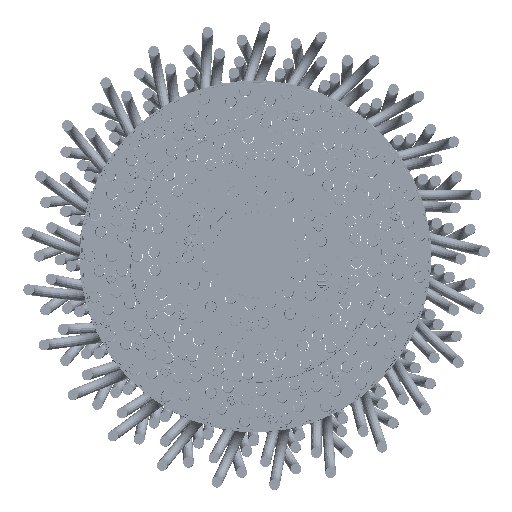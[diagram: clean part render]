
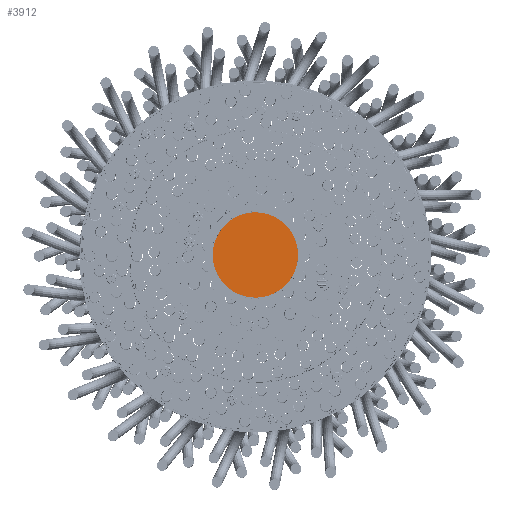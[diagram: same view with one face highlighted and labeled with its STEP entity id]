
A CAD part, top view. The second image highlights one B-rep face of the part: STEP entity #3912.
In plain terms, the highlighted free-form (B-spline) face has degree [1, 1] with [2, 2] control points.
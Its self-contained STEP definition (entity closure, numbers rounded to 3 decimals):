
#3912=ADVANCED_FACE('',(#5302),#63239,.T.);
#5302=FACE_OUTER_BOUND('',#7673,.T.);
#7673=EDGE_LOOP('',(#16253,#16254));
#16253=ORIENTED_EDGE('',*,*,#51404,.F.);
#16254=ORIENTED_EDGE('',*,*,#51408,.T.);
#23298=(
BOUNDED_CURVE()
B_SPLINE_CURVE(2,(#129102,#129103,#129104,#129105,#129106),
 .UNSPECIFIED.,.F.,.F.)
B_SPLINE_CURVE_WITH_KNOTS((3,2,3),(-251.327,-125.664,
0.),.UNSPECIFIED.)
CURVE()
GEOMETRIC_REPRESENTATION_ITEM()
RATIONAL_B_SPLINE_CURVE((1.,0.707,1.,0.707,1.))
REPRESENTATION_ITEM('')
);
#23304=(
BOUNDED_CURVE()
B_SPLINE_CURVE(2,(#129135,#129136,#129137,#129138,#129139),
 .UNSPECIFIED.,.F.,.F.)
B_SPLINE_CURVE_WITH_KNOTS((3,2,3),(-251.327,-125.664,
0.),.UNSPECIFIED.)
CURVE()
GEOMETRIC_REPRESENTATION_ITEM()
RATIONAL_B_SPLINE_CURVE((1.,0.707,1.,0.707,1.))
REPRESENTATION_ITEM('')
);
#23305=(
BOUNDED_CURVE()
B_SPLINE_CURVE(2,(#129140,#129141,#129142,#129143,#129144),
 .UNSPECIFIED.,.F.,.F.)
B_SPLINE_CURVE_WITH_KNOTS((3,2,3),(251.327,376.991,502.655),
 .UNSPECIFIED.)
CURVE()
GEOMETRIC_REPRESENTATION_ITEM()
RATIONAL_B_SPLINE_CURVE((1.,0.707,1.,0.707,1.))
REPRESENTATION_ITEM('')
);
#23306=(
BOUNDED_CURVE()
B_SPLINE_CURVE(2,(#129145,#129146,#129147,#129148,#129149),
 .UNSPECIFIED.,.F.,.F.)
B_SPLINE_CURVE_WITH_KNOTS((3,2,3),(251.327,376.991,502.655),
 .UNSPECIFIED.)
CURVE()
GEOMETRIC_REPRESENTATION_ITEM()
RATIONAL_B_SPLINE_CURVE((1.,0.707,1.,0.707,1.))
REPRESENTATION_ITEM('')
);
#32000=PCURVE('',#64409,#41416);
#32005=PCURVE('',#63239,#41421);
#32006=PCURVE('',#63239,#41422);
#32009=PCURVE('',#64410,#41425);
#41416=DEFINITIONAL_REPRESENTATION('',(#58478),#139271);
#41421=DEFINITIONAL_REPRESENTATION('',(#23304),#139271);
#41422=DEFINITIONAL_REPRESENTATION('',(#23306),#139271);
#41425=DEFINITIONAL_REPRESENTATION('',(#58483),#139271);
#46696=SURFACE_CURVE('',#23298,(#32000,#32005),.PCURVE_S1.);
#46700=SURFACE_CURVE('',#23305,(#32006,#32009),.PCURVE_S1.);
#51404=EDGE_CURVE('',#62812,#62810,#46696,.T.);
#51408=EDGE_CURVE('',#62812,#62810,#46700,.T.);
#58478=B_SPLINE_CURVE_WITH_KNOTS('',1,(#129107,#129108),.UNSPECIFIED.,.F.,
 .F.,(2,2),(-251.327,0.),.UNSPECIFIED.);
#58483=B_SPLINE_CURVE_WITH_KNOTS('',1,(#129154,#129155),.UNSPECIFIED.,.F.,
 .F.,(2,2),(251.327,502.655),.UNSPECIFIED.);
#62810=VERTEX_POINT('',#129095);
#62812=VERTEX_POINT('',#129097);
#63239=B_SPLINE_SURFACE_WITH_KNOTS('',1,1,((#129080,#129081),(#129082,#129083)),
 .UNSPECIFIED.,.F.,.F.,.F.,(2,2),(2,2),(-100.,100.),
(-100.,100.),.UNSPECIFIED.);
#64409=(
BOUNDED_SURFACE()
B_SPLINE_SURFACE(2,1,((#129066,#129067),(#129068,#129069),(#129070,#129071),
(#129072,#129073),(#129074,#129075)),.UNSPECIFIED.,.F.,.F.,.F.)
B_SPLINE_SURFACE_WITH_KNOTS((3,2,3),(2,2),(0.,125.664,251.327),
(0.,4.),.UNSPECIFIED.)
GEOMETRIC_REPRESENTATION_ITEM()
RATIONAL_B_SPLINE_SURFACE(((1.,1.),(0.707,0.707),
(1.,1.),(0.707,0.707),(1.,1.)))
REPRESENTATION_ITEM('')
SURFACE()
);
#64410=(
BOUNDED_SURFACE()
B_SPLINE_SURFACE(2,1,((#129084,#129085),(#129086,#129087),(#129088,#129089),
(#129090,#129091),(#129092,#129093)),.UNSPECIFIED.,.F.,.F.,.F.)
B_SPLINE_SURFACE_WITH_KNOTS((3,2,3),(2,2),(251.327,376.991,
502.655),(0.,4.),.UNSPECIFIED.)
GEOMETRIC_REPRESENTATION_ITEM()
RATIONAL_B_SPLINE_SURFACE(((1.,1.),(0.707,0.707),
(1.,1.),(0.707,0.707),(1.,1.)))
REPRESENTATION_ITEM('')
SURFACE()
);
#129066=CARTESIAN_POINT('',(-51.35,61.345,4.));
#129067=CARTESIAN_POINT('',(-51.35,61.345,0.));
#129068=CARTESIAN_POINT('',(9.995,112.695,4.));
#129069=CARTESIAN_POINT('',(9.995,112.695,0.));
#129070=CARTESIAN_POINT('',(61.345,51.35,4.));
#129071=CARTESIAN_POINT('',(61.345,51.35,0.));
#129072=CARTESIAN_POINT('',(112.695,-9.995,4.));
#129073=CARTESIAN_POINT('',(112.695,-9.995,0.));
#129074=CARTESIAN_POINT('',(51.35,-61.345,4.));
#129075=CARTESIAN_POINT('',(51.35,-61.345,0.));
#129080=CARTESIAN_POINT('',(-12.494,-140.868,0.));
#129081=CARTESIAN_POINT('',(140.868,-12.494,0.));
#129082=CARTESIAN_POINT('',(-140.868,12.494,0.));
#129083=CARTESIAN_POINT('',(12.494,140.868,0.));
#129084=CARTESIAN_POINT('',(51.35,-61.345,4.));
#129085=CARTESIAN_POINT('',(51.35,-61.345,0.));
#129086=CARTESIAN_POINT('',(-9.995,-112.695,4.));
#129087=CARTESIAN_POINT('',(-9.995,-112.695,0.));
#129088=CARTESIAN_POINT('',(-61.345,-51.35,4.));
#129089=CARTESIAN_POINT('',(-61.345,-51.35,0.));
#129090=CARTESIAN_POINT('',(-112.695,9.995,4.));
#129091=CARTESIAN_POINT('',(-112.695,9.995,0.));
#129092=CARTESIAN_POINT('',(-51.35,61.345,4.));
#129093=CARTESIAN_POINT('',(-51.35,61.345,0.));
#129095=CARTESIAN_POINT('',(-51.35,61.345,0.));
#129097=CARTESIAN_POINT('',(51.35,-61.345,0.));
#129102=CARTESIAN_POINT('',(51.35,-61.345,0.));
#129103=CARTESIAN_POINT('',(112.695,-9.995,0.));
#129104=CARTESIAN_POINT('',(61.345,51.35,0.));
#129105=CARTESIAN_POINT('',(9.995,112.695,0.));
#129106=CARTESIAN_POINT('',(-51.35,61.345,0.));
#129107=CARTESIAN_POINT('',(251.327,4.));
#129108=CARTESIAN_POINT('',(0.,4.));
#129135=CARTESIAN_POINT('',(-80.,0.));
#129136=CARTESIAN_POINT('',(-80.,80.));
#129137=CARTESIAN_POINT('',(0.,80.));
#129138=CARTESIAN_POINT('',(80.,80.));
#129139=CARTESIAN_POINT('',(80.,0.));
#129140=CARTESIAN_POINT('',(51.35,-61.345,0.));
#129141=CARTESIAN_POINT('',(-9.995,-112.695,0.));
#129142=CARTESIAN_POINT('',(-61.345,-51.35,0.));
#129143=CARTESIAN_POINT('',(-112.695,9.995,0.));
#129144=CARTESIAN_POINT('',(-51.35,61.345,0.));
#129145=CARTESIAN_POINT('',(-80.,0.));
#129146=CARTESIAN_POINT('',(-80.,-80.));
#129147=CARTESIAN_POINT('',(0.,-80.));
#129148=CARTESIAN_POINT('',(80.,-80.));
#129149=CARTESIAN_POINT('',(80.,0.));
#129154=CARTESIAN_POINT('',(251.327,4.));
#129155=CARTESIAN_POINT('',(502.655,4.));
#139271=(
GEOMETRIC_REPRESENTATION_CONTEXT(2)
PARAMETRIC_REPRESENTATION_CONTEXT()
REPRESENTATION_CONTEXT('pspace','')
);
